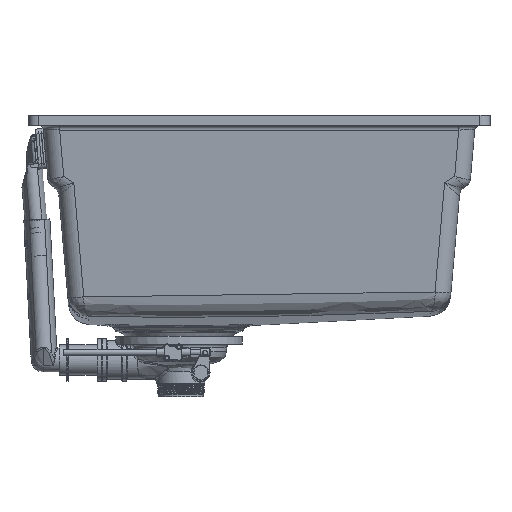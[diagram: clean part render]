
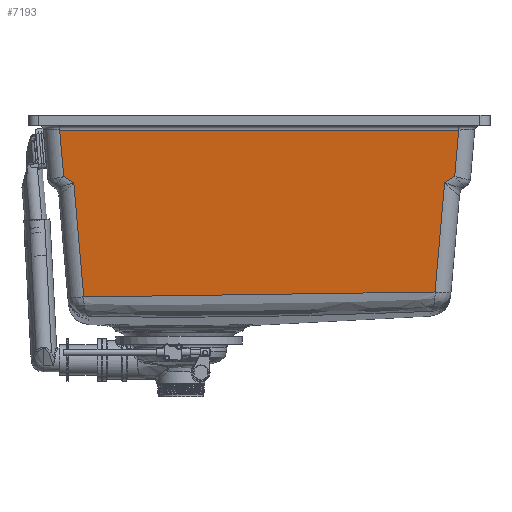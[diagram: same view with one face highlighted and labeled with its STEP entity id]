
A CAD part, left-side view. The second image highlights one B-rep face of the part: STEP entity #7193.
In plain terms, the highlighted planar face has unit normal (-0.996, 0, -0.087).
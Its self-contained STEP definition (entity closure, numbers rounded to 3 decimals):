
#7193=ADVANCED_FACE('',(#9802),#45156,.T.);
#9802=FACE_OUTER_BOUND('',#12521,.T.);
#12521=EDGE_LOOP('',(#23240,#23241,#23242,#23243,#23244,#23245,#23246,#23247,
#23248));
#23240=ORIENTED_EDGE('',*,*,#32454,.F.);
#23241=ORIENTED_EDGE('',*,*,#32415,.F.);
#23242=ORIENTED_EDGE('',*,*,#32437,.F.);
#23243=ORIENTED_EDGE('',*,*,#32464,.F.);
#23244=ORIENTED_EDGE('',*,*,#32465,.F.);
#23245=ORIENTED_EDGE('',*,*,#32438,.F.);
#23246=ORIENTED_EDGE('',*,*,#32420,.F.);
#23247=ORIENTED_EDGE('',*,*,#32456,.F.);
#23248=ORIENTED_EDGE('',*,*,#32292,.T.);
#32292=EDGE_CURVE('',#42533,#42530,#37942,.T.);
#32415=EDGE_CURVE('',#42583,#42554,#37999,.T.);
#32420=EDGE_CURVE('',#42544,#42573,#38002,.T.);
#32437=EDGE_CURVE('',#42587,#42583,#38008,.T.);
#32438=EDGE_CURVE('',#42573,#42594,#38009,.T.);
#32454=EDGE_CURVE('',#42554,#42530,#38020,.T.);
#32456=EDGE_CURVE('',#42533,#42544,#38021,.T.);
#32464=EDGE_CURVE('',#42586,#42587,#38025,.T.);
#32465=EDGE_CURVE('',#42594,#42586,#38026,.T.);
#37942=B_SPLINE_CURVE_WITH_KNOTS('',1,(#93548,#93549),.UNSPECIFIED.,.F.,
 .F.,(2,2),(-397.619,0.),.UNSPECIFIED.);
#37999=B_SPLINE_CURVE_WITH_KNOTS('',1,(#96160,#96161),.UNSPECIFIED.,.F.,
 .F.,(2,2),(0.,11.937),.UNSPECIFIED.);
#38002=B_SPLINE_CURVE_WITH_KNOTS('',1,(#96172,#96173),.UNSPECIFIED.,.F.,
 .F.,(2,2),(0.,11.937),.UNSPECIFIED.);
#38008=B_SPLINE_CURVE_WITH_KNOTS('',1,(#96217,#96218),.UNSPECIFIED.,.F.,
 .F.,(2,2),(0.,114.482),.UNSPECIFIED.);
#38009=B_SPLINE_CURVE_WITH_KNOTS('',1,(#96219,#96220),.UNSPECIFIED.,.F.,
 .F.,(2,2),(0.,109.598),.UNSPECIFIED.);
#38020=B_SPLINE_CURVE_WITH_KNOTS('',1,(#96322,#96323),.UNSPECIFIED.,.F.,
 .F.,(2,2),(0.,46.451),.UNSPECIFIED.);
#38021=B_SPLINE_CURVE_WITH_KNOTS('',1,(#96329,#96330),.UNSPECIFIED.,.F.,
 .F.,(2,2),(0.,46.451),.UNSPECIFIED.);
#38025=B_SPLINE_CURVE_WITH_KNOTS('',3,(#96353,#96354,#96355,#96356),
 .UNSPECIFIED.,.F.,.F.,(4,4),(-0.148,0.),.UNSPECIFIED.);
#38026=B_SPLINE_CURVE_WITH_KNOTS('',3,(#96357,#96358,#96359,#96360,#96361,
#96362,#96363,#96364,#96365,#96366,#96367,#96368,#96369,#96370,#96371,#96372,
#96373,#96374,#96375,#96376,#96377,#96378,#96379,#96380,#96381),
 .UNSPECIFIED.,.F.,.F.,(4,3,3,3,3,3,3,3,4),(-350.179,-278.973,
-175.085,-175.077,-166.88,-87.542,-86.482,
-73.754,0.),.UNSPECIFIED.);
#42530=VERTEX_POINT('',#93192);
#42533=VERTEX_POINT('',#93195);
#42544=VERTEX_POINT('',#93206);
#42554=VERTEX_POINT('',#93216);
#42573=VERTEX_POINT('',#93235);
#42583=VERTEX_POINT('',#93245);
#42586=VERTEX_POINT('',#93248);
#42587=VERTEX_POINT('',#93249);
#42594=VERTEX_POINT('',#93256);
#45156=PLANE('',#48848);
#48848=AXIS2_PLACEMENT_3D('',#91624,#54155,$);
#54155=DIRECTION('',(-0.996,0.,-0.087));
#91624=CARTESIAN_POINT('',(-248.629,-238.692,-198.819));
#93192=CARTESIAN_POINT('',(-264.749,198.81,-14.564));
#93195=CARTESIAN_POINT('',(-264.749,-198.81,-14.564));
#93206=CARTESIAN_POINT('',(-260.715,-194.776,-60.664));
#93216=CARTESIAN_POINT('',(-260.715,194.776,-60.664));
#93235=CARTESIAN_POINT('',(-260.147,-184.776,-67.158));
#93245=CARTESIAN_POINT('',(-260.147,184.776,-67.158));
#93248=CARTESIAN_POINT('',(-250.194,174.821,-180.921));
#93249=CARTESIAN_POINT('',(-250.207,174.836,-180.774));
#93256=CARTESIAN_POINT('',(-250.631,-175.26,-175.927));
#93548=CARTESIAN_POINT('',(-264.749,-198.81,-14.564));
#93549=CARTESIAN_POINT('',(-264.749,198.81,-14.564));
#96160=CARTESIAN_POINT('',(-260.147,184.776,-67.158));
#96161=CARTESIAN_POINT('',(-260.715,194.776,-60.664));
#96172=CARTESIAN_POINT('',(-260.715,-194.776,-60.664));
#96173=CARTESIAN_POINT('',(-260.147,-184.776,-67.158));
#96217=CARTESIAN_POINT('',(-250.207,174.836,-180.774));
#96218=CARTESIAN_POINT('',(-260.147,184.776,-67.158));
#96219=CARTESIAN_POINT('',(-260.147,-184.776,-67.158));
#96220=CARTESIAN_POINT('',(-250.631,-175.26,-175.927));
#96322=CARTESIAN_POINT('',(-260.715,194.776,-60.664));
#96323=CARTESIAN_POINT('',(-264.749,198.81,-14.564));
#96329=CARTESIAN_POINT('',(-264.749,-198.81,-14.564));
#96330=CARTESIAN_POINT('',(-260.715,-194.776,-60.664));
#96353=CARTESIAN_POINT('',(-250.194,174.821,-180.921));
#96354=CARTESIAN_POINT('',(-250.199,174.827,-180.872));
#96355=CARTESIAN_POINT('',(-250.203,174.832,-180.823));
#96356=CARTESIAN_POINT('',(-250.207,174.836,-180.774));
#96357=CARTESIAN_POINT('',(-250.631,-175.26,-175.927));
#96358=CARTESIAN_POINT('',(-250.55,-151.543,-176.854));
#96359=CARTESIAN_POINT('',(-250.474,-127.824,-177.73));
#96360=CARTESIAN_POINT('',(-250.405,-104.102,-178.512));
#96361=CARTESIAN_POINT('',(-250.305,-69.492,-179.653));
#96362=CARTESIAN_POINT('',(-250.223,-34.877,-180.592));
#96363=CARTESIAN_POINT('',(-250.17,-0.251,-181.194));
#96364=CARTESIAN_POINT('',(-250.17,-0.248,-181.195));
#96365=CARTESIAN_POINT('',(-250.17,-0.246,-181.195));
#96366=CARTESIAN_POINT('',(-250.17,-0.243,-181.195));
#96367=CARTESIAN_POINT('',(-250.166,2.489,-181.242));
#96368=CARTESIAN_POINT('',(-250.162,5.221,-181.287));
#96369=CARTESIAN_POINT('',(-250.159,7.953,-181.33));
#96370=CARTESIAN_POINT('',(-250.122,34.398,-181.747));
#96371=CARTESIAN_POINT('',(-250.104,60.843,-181.951));
#96372=CARTESIAN_POINT('',(-250.108,87.287,-181.907));
#96373=CARTESIAN_POINT('',(-250.108,87.64,-181.906));
#96374=CARTESIAN_POINT('',(-250.108,87.993,-181.905));
#96375=CARTESIAN_POINT('',(-250.108,88.347,-181.905));
#96376=CARTESIAN_POINT('',(-250.109,92.589,-181.897));
#96377=CARTESIAN_POINT('',(-250.11,96.832,-181.882));
#96378=CARTESIAN_POINT('',(-250.112,101.075,-181.861));
#96379=CARTESIAN_POINT('',(-250.123,125.657,-181.742));
#96380=CARTESIAN_POINT('',(-250.151,150.239,-181.415));
#96381=CARTESIAN_POINT('',(-250.194,174.821,-180.921));
